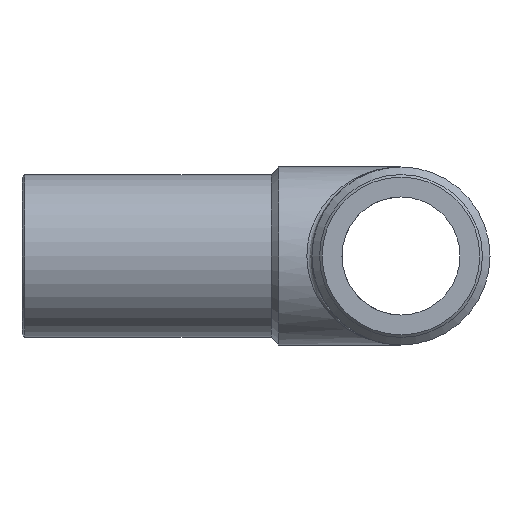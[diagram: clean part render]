
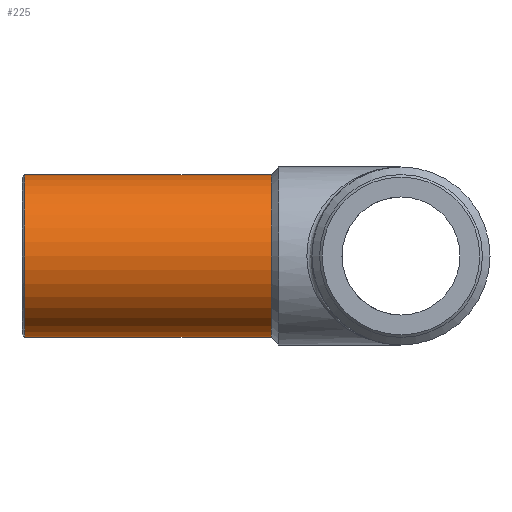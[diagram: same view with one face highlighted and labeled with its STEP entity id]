
A CAD part, left-side view. The second image highlights one B-rep face of the part: STEP entity #225.
In plain terms, the highlighted cylindrical face has radius 16 mm (diameter 32 mm), a full revolution.
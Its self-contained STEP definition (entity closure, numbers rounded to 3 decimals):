
#44=CIRCLE('',#275,16.);
#45=CIRCLE('',#277,16.);
#76=ORIENTED_EDGE('',*,*,#108,.T.);
#77=ORIENTED_EDGE('',*,*,#107,.F.);
#107=EDGE_CURVE('',#126,#126,#44,.T.);
#108=EDGE_CURVE('',#127,#127,#45,.F.);
#126=VERTEX_POINT('',#407);
#127=VERTEX_POINT('',#410);
#160=EDGE_LOOP('',(#76));
#161=EDGE_LOOP('',(#77));
#196=FACE_BOUND('',#160,.T.);
#197=FACE_BOUND('',#161,.T.);
#212=CYLINDRICAL_SURFACE('',#276,16.);
#225=ADVANCED_FACE('',(#196,#197),#212,.T.);
#275=AXIS2_PLACEMENT_3D('',#406,#345,#346);
#276=AXIS2_PLACEMENT_3D('',#408,#347,#348);
#277=AXIS2_PLACEMENT_3D('',#409,#349,#350);
#345=DIRECTION('',(0.,-1.,0.));
#346=DIRECTION('',(1.,0.,0.));
#347=DIRECTION('',(0.,-1.,0.));
#348=DIRECTION('',(1.,0.,0.));
#349=DIRECTION('',(0.,1.,0.));
#350=DIRECTION('',(-1.,0.,0.));
#406=CARTESIAN_POINT('',(0.,25.5,0.));
#407=CARTESIAN_POINT('',(16.,25.5,0.));
#408=CARTESIAN_POINT('',(0.,0.,0.));
#409=CARTESIAN_POINT('',(0.,74.,0.));
#410=CARTESIAN_POINT('',(-16.,74.,0.));
